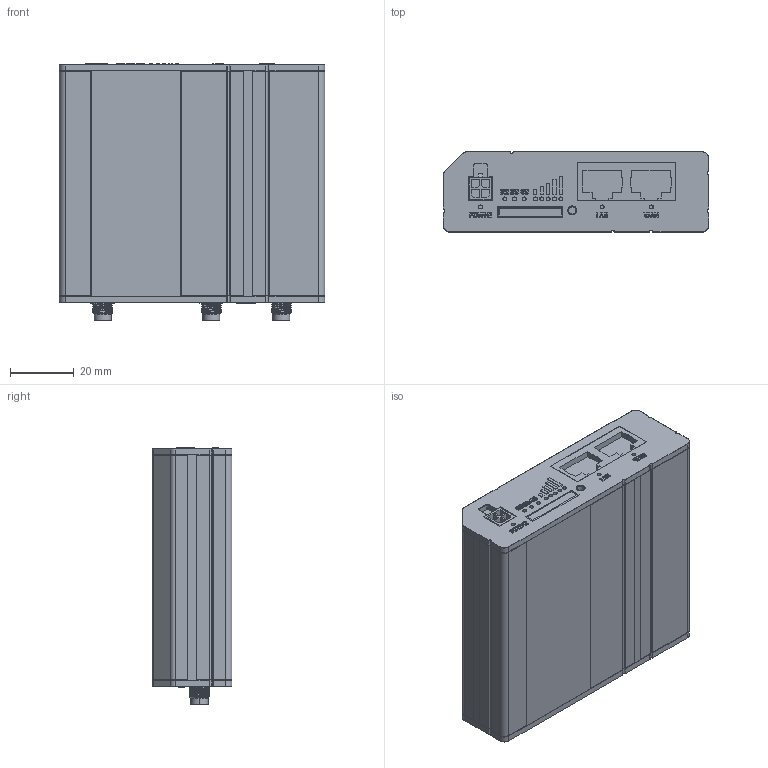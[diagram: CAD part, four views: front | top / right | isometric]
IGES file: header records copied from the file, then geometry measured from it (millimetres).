
Start section: SolidWorks IGES file using analytic representation for surfaces
Global section: file name: Z:\Products\UCR (Router)\UCR-B5\UCR-B5_CAD Files\3D\UCR-B5.IGS; native system: SolidWorks 2017; preprocessor: SolidWorks 2017; author: LaorB; date: 200407.154159; units: millimetre
Bounding box: 83 x 25 x 80.25 mm (x, y, z)
Surface area: 21542.5 mm2 (no closed solid volume)
Topology: 0 solids, 0 shells, 1512 faces, 12937 edges, 12913 vertices
Faces by surface type: bspline 1242, revolution 270
